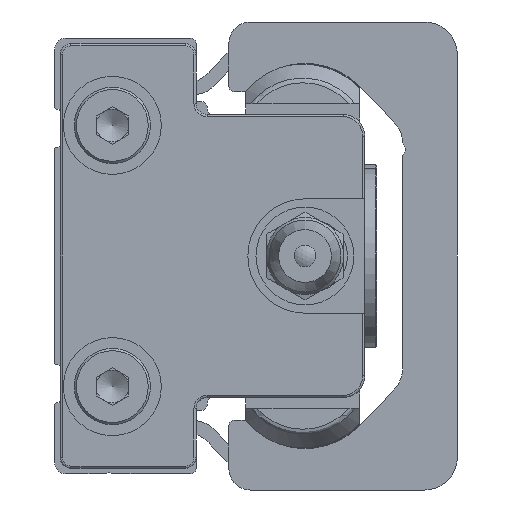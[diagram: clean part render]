
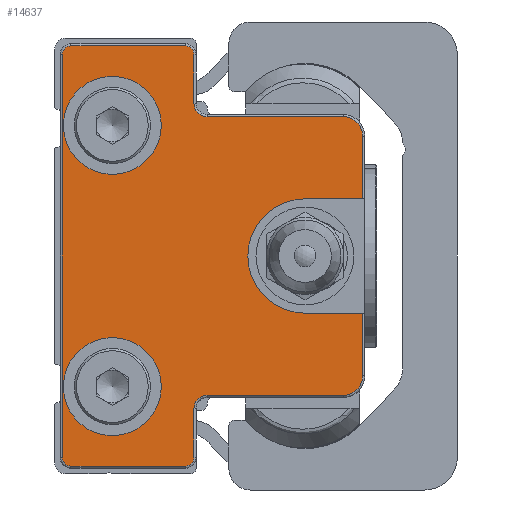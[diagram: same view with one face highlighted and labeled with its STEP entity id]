
A CAD part, left-side view. The second image highlights one B-rep face of the part: STEP entity #14637.
In plain terms, the highlighted planar face has unit normal (-1, 0, 0) as drawn and (0, 0, 1) by its records, which use the part's own axes.
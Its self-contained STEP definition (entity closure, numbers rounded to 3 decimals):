
#749=PLANE('',#16234);
#1785=LINE('',#25010,#2886);
#1786=LINE('',#25013,#2887);
#1787=LINE('',#25017,#2888);
#1788=LINE('',#25021,#2889);
#1789=LINE('',#25025,#2890);
#1790=LINE('',#25029,#2891);
#1791=LINE('',#25033,#2892);
#1792=LINE('',#25037,#2893);
#1793=LINE('',#25041,#2894);
#1794=LINE('',#25045,#2895);
#1795=LINE('',#25047,#2896);
#2886=VECTOR('',#20275,1000.);
#2887=VECTOR('',#20276,1000.);
#2888=VECTOR('',#20279,1000.);
#2889=VECTOR('',#20282,1000.);
#2890=VECTOR('',#20285,1000.);
#2891=VECTOR('',#20288,1000.);
#2892=VECTOR('',#20291,1000.);
#2893=VECTOR('',#20294,1000.);
#2894=VECTOR('',#20297,1000.);
#2895=VECTOR('',#20300,1000.);
#2896=VECTOR('',#20301,1000.);
#6424=ORIENTED_EDGE('',*,*,#8779,.F.);
#6425=ORIENTED_EDGE('',*,*,#8780,.F.);
#6426=ORIENTED_EDGE('',*,*,#8781,.F.);
#6427=ORIENTED_EDGE('',*,*,#8782,.T.);
#6428=ORIENTED_EDGE('',*,*,#8783,.T.);
#6429=ORIENTED_EDGE('',*,*,#8784,.T.);
#6430=ORIENTED_EDGE('',*,*,#8785,.T.);
#6431=ORIENTED_EDGE('',*,*,#8786,.T.);
#6432=ORIENTED_EDGE('',*,*,#8787,.T.);
#6433=ORIENTED_EDGE('',*,*,#8788,.T.);
#6434=ORIENTED_EDGE('',*,*,#8789,.T.);
#6435=ORIENTED_EDGE('',*,*,#8790,.T.);
#6436=ORIENTED_EDGE('',*,*,#8791,.T.);
#6437=ORIENTED_EDGE('',*,*,#8792,.T.);
#6438=ORIENTED_EDGE('',*,*,#8793,.T.);
#6439=ORIENTED_EDGE('',*,*,#8794,.T.);
#6440=ORIENTED_EDGE('',*,*,#8795,.T.);
#6441=ORIENTED_EDGE('',*,*,#8796,.T.);
#6442=ORIENTED_EDGE('',*,*,#8797,.T.);
#6443=ORIENTED_EDGE('',*,*,#8798,.T.);
#6444=ORIENTED_EDGE('',*,*,#8799,.F.);
#6445=ORIENTED_EDGE('',*,*,#8800,.F.);
#8779=EDGE_CURVE('',#10275,#10275,#11104,.T.);
#8780=EDGE_CURVE('',#10276,#10276,#11105,.T.);
#8781=EDGE_CURVE('',#10277,#10278,#1785,.T.);
#8782=EDGE_CURVE('',#10277,#10279,#1786,.T.);
#8783=EDGE_CURVE('',#10279,#10280,#11106,.T.);
#8784=EDGE_CURVE('',#10280,#10281,#1787,.T.);
#8785=EDGE_CURVE('',#10281,#10282,#11107,.F.);
#8786=EDGE_CURVE('',#10282,#10283,#1788,.T.);
#8787=EDGE_CURVE('',#10283,#10284,#11108,.T.);
#8788=EDGE_CURVE('',#10284,#10285,#1789,.T.);
#8789=EDGE_CURVE('',#10285,#10286,#11109,.T.);
#8790=EDGE_CURVE('',#10286,#10287,#1790,.T.);
#8791=EDGE_CURVE('',#10287,#10288,#11110,.T.);
#8792=EDGE_CURVE('',#10288,#10289,#1791,.T.);
#8793=EDGE_CURVE('',#10289,#10290,#11111,.T.);
#8794=EDGE_CURVE('',#10290,#10291,#1792,.T.);
#8795=EDGE_CURVE('',#10291,#10292,#11112,.F.);
#8796=EDGE_CURVE('',#10292,#10293,#1793,.T.);
#8797=EDGE_CURVE('',#10293,#10294,#11113,.T.);
#8798=EDGE_CURVE('',#10294,#10295,#1794,.T.);
#8799=EDGE_CURVE('',#10296,#10295,#1795,.T.);
#8800=EDGE_CURVE('',#10278,#10296,#11114,.T.);
#10275=VERTEX_POINT('',#25007);
#10276=VERTEX_POINT('',#25009);
#10277=VERTEX_POINT('',#25011);
#10278=VERTEX_POINT('',#25012);
#10279=VERTEX_POINT('',#25014);
#10280=VERTEX_POINT('',#25016);
#10281=VERTEX_POINT('',#25018);
#10282=VERTEX_POINT('',#25020);
#10283=VERTEX_POINT('',#25022);
#10284=VERTEX_POINT('',#25024);
#10285=VERTEX_POINT('',#25026);
#10286=VERTEX_POINT('',#25028);
#10287=VERTEX_POINT('',#25030);
#10288=VERTEX_POINT('',#25032);
#10289=VERTEX_POINT('',#25034);
#10290=VERTEX_POINT('',#25036);
#10291=VERTEX_POINT('',#25038);
#10292=VERTEX_POINT('',#25040);
#10293=VERTEX_POINT('',#25042);
#10294=VERTEX_POINT('',#25044);
#10295=VERTEX_POINT('',#25046);
#10296=VERTEX_POINT('',#25048);
#11104=CIRCLE('',#16235,4.5);
#11105=CIRCLE('',#16236,4.5);
#11106=CIRCLE('',#16237,1.8);
#11107=CIRCLE('',#16238,1.2);
#11108=CIRCLE('',#16239,0.8);
#11109=CIRCLE('',#16240,0.8);
#11110=CIRCLE('',#16241,0.8);
#11111=CIRCLE('',#16242,0.8);
#11112=CIRCLE('',#16243,1.2);
#11113=CIRCLE('',#16244,1.8);
#11114=CIRCLE('',#16245,5.25);
#12223=EDGE_LOOP('',(#6424));
#12224=EDGE_LOOP('',(#6425));
#12225=EDGE_LOOP('',(#6426,#6427,#6428,#6429,#6430,#6431,#6432,#6433,#6434,
#6435,#6436,#6437,#6438,#6439,#6440,#6441,#6442,#6443,#6444,#6445));
#13409=FACE_BOUND('',#12223,.T.);
#13410=FACE_BOUND('',#12224,.T.);
#13411=FACE_BOUND('',#12225,.T.);
#14637=ADVANCED_FACE('',(#13409,#13410,#13411),#749,.T.);
#16234=AXIS2_PLACEMENT_3D('',#25005,#20269,#20270);
#16235=AXIS2_PLACEMENT_3D('',#25006,#20271,#20272);
#16236=AXIS2_PLACEMENT_3D('',#25008,#20273,#20274);
#16237=AXIS2_PLACEMENT_3D('',#25015,#20277,#20278);
#16238=AXIS2_PLACEMENT_3D('',#25019,#20280,#20281);
#16239=AXIS2_PLACEMENT_3D('',#25023,#20283,#20284);
#16240=AXIS2_PLACEMENT_3D('',#25027,#20286,#20287);
#16241=AXIS2_PLACEMENT_3D('',#25031,#20289,#20290);
#16242=AXIS2_PLACEMENT_3D('',#25035,#20292,#20293);
#16243=AXIS2_PLACEMENT_3D('',#25039,#20295,#20296);
#16244=AXIS2_PLACEMENT_3D('',#25043,#20298,#20299);
#16245=AXIS2_PLACEMENT_3D('',#25049,#20302,#20303);
#20269=DIRECTION('',(0.,0.,1.));
#20270=DIRECTION('',(1.,0.,0.));
#20271=DIRECTION('',(0.,0.,1.));
#20272=DIRECTION('',(1.,0.,0.));
#20273=DIRECTION('',(0.,0.,1.));
#20274=DIRECTION('',(1.,0.,0.));
#20275=DIRECTION('',(0.,1.,0.));
#20276=DIRECTION('',(1.,0.,0.));
#20277=DIRECTION('',(0.,0.,1.));
#20278=DIRECTION('',(1.,0.,0.));
#20279=DIRECTION('',(0.,1.,0.));
#20280=DIRECTION('',(0.,0.,1.));
#20281=DIRECTION('',(1.,0.,0.));
#20282=DIRECTION('',(1.,0.,0.));
#20283=DIRECTION('',(0.,0.,1.));
#20284=DIRECTION('',(1.,0.,0.));
#20285=DIRECTION('',(0.,1.,0.));
#20286=DIRECTION('',(0.,0.,1.));
#20287=DIRECTION('',(1.,0.,0.));
#20288=DIRECTION('',(-1.,0.,0.));
#20289=DIRECTION('',(0.,0.,1.));
#20290=DIRECTION('',(1.,0.,0.));
#20291=DIRECTION('',(0.,-1.,0.));
#20292=DIRECTION('',(0.,0.,1.));
#20293=DIRECTION('',(1.,0.,0.));
#20294=DIRECTION('',(1.,0.,0.));
#20295=DIRECTION('',(0.,0.,1.));
#20296=DIRECTION('',(1.,0.,0.));
#20297=DIRECTION('',(0.,-1.,0.));
#20298=DIRECTION('',(0.,0.,1.));
#20299=DIRECTION('',(1.,0.,0.));
#20300=DIRECTION('',(1.,0.,0.));
#20301=DIRECTION('',(0.,-1.,0.));
#20302=DIRECTION('',(0.,0.,1.));
#20303=DIRECTION('',(1.,0.,0.));
#25005=CARTESIAN_POINT('',(-18.5,-11.5,5.4));
#25006=CARTESIAN_POINT('',(-12.,-4.8,5.4));
#25007=CARTESIAN_POINT('',(-7.5,-4.8,5.4));
#25008=CARTESIAN_POINT('',(12.,-4.8,5.4));
#25009=CARTESIAN_POINT('',(16.5,-4.8,5.4));
#25010=CARTESIAN_POINT('',(5.25,-28.5,5.4));
#25011=CARTESIAN_POINT('',(5.25,-27.8,5.4));
#25012=CARTESIAN_POINT('',(5.25,-22.5,5.4));
#25013=CARTESIAN_POINT('',(11.,-27.8,5.4));
#25014=CARTESIAN_POINT('',(11.,-27.8,5.4));
#25015=CARTESIAN_POINT('',(11.,-26.,5.4));
#25016=CARTESIAN_POINT('',(12.8,-26.,5.4));
#25017=CARTESIAN_POINT('',(12.8,-13.5,5.4));
#25018=CARTESIAN_POINT('',(12.8,-13.5,5.4));
#25019=CARTESIAN_POINT('',(14.,-13.5,5.4));
#25020=CARTESIAN_POINT('',(14.,-12.3,5.4));
#25021=CARTESIAN_POINT('',(18.5,-12.3,5.4));
#25022=CARTESIAN_POINT('',(18.5,-12.3,5.4));
#25023=CARTESIAN_POINT('',(18.5,-11.5,5.4));
#25024=CARTESIAN_POINT('',(19.3,-11.5,5.4));
#25025=CARTESIAN_POINT('',(19.3,-1.,5.4));
#25026=CARTESIAN_POINT('',(19.3,-1.,5.4));
#25027=CARTESIAN_POINT('',(18.5,-1.,5.4));
#25028=CARTESIAN_POINT('',(18.5,-0.2,5.4));
#25029=CARTESIAN_POINT('',(-18.5,-0.2,5.4));
#25030=CARTESIAN_POINT('',(-18.5,-0.2,5.4));
#25031=CARTESIAN_POINT('',(-18.5,-1.,5.4));
#25032=CARTESIAN_POINT('',(-19.3,-1.,5.4));
#25033=CARTESIAN_POINT('',(-19.3,-11.5,5.4));
#25034=CARTESIAN_POINT('',(-19.3,-11.5,5.4));
#25035=CARTESIAN_POINT('',(-18.5,-11.5,5.4));
#25036=CARTESIAN_POINT('',(-18.5,-12.3,5.4));
#25037=CARTESIAN_POINT('',(-14.,-12.3,5.4));
#25038=CARTESIAN_POINT('',(-14.,-12.3,5.4));
#25039=CARTESIAN_POINT('',(-14.,-13.5,5.4));
#25040=CARTESIAN_POINT('',(-12.8,-13.5,5.4));
#25041=CARTESIAN_POINT('',(-12.8,-26.,5.4));
#25042=CARTESIAN_POINT('',(-12.8,-26.,5.4));
#25043=CARTESIAN_POINT('',(-11.,-26.,5.4));
#25044=CARTESIAN_POINT('',(-11.,-27.8,5.4));
#25045=CARTESIAN_POINT('',(-5.25,-27.8,5.4));
#25046=CARTESIAN_POINT('',(-5.25,-27.8,5.4));
#25047=CARTESIAN_POINT('',(-5.25,-22.5,5.4));
#25048=CARTESIAN_POINT('',(-5.25,-22.5,5.4));
#25049=CARTESIAN_POINT('',(0.,-22.5,5.4));
